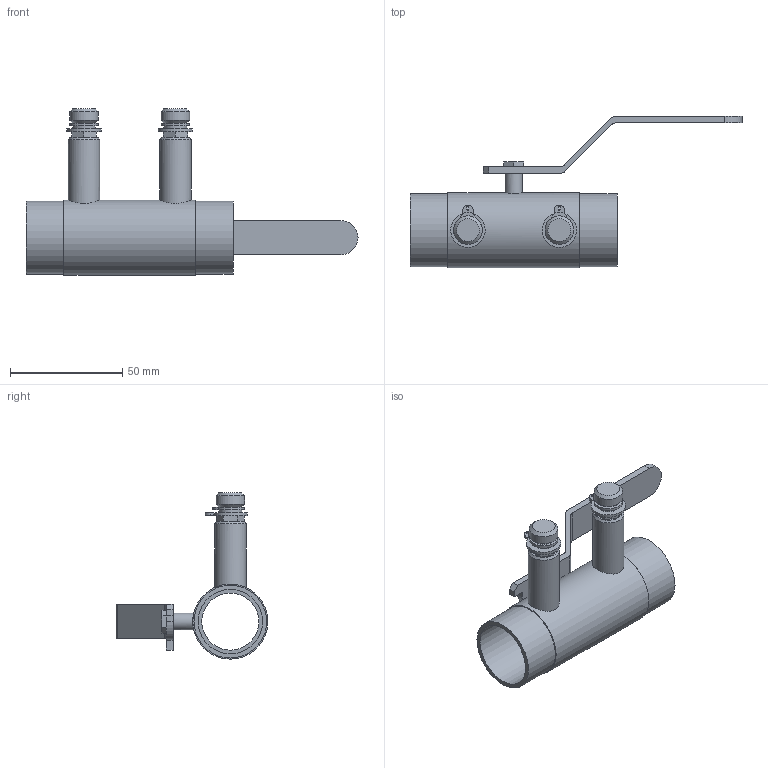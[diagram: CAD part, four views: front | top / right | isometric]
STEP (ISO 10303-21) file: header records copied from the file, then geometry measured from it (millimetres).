
FILE_DESCRIPTION(/* description */ ('VIC BALANCING VALVE SERIES 78BL (SWT)','CAx-IF Rec.Pracs.---Representation and Presentation of Product Manufacturing Information (PMI)---4.0---2014-10-13'),/* implementation_level */ '2;1');
FILE_NAME(/* name */ 'C:\Users\kkamble\Desktop\New folder (12)\New folder\step\Victaulic-IPS-TA Balancing Ball Valve Series 78BL (SWT)\Victaulic-IPS-TA Balancing Ball Valve Series 78BL (SWT)_1 (25).stp',/* time_stamp */ '2020-10-13T18:39:08+05:00',/* author */ ('kkamble'),/* organization */ ('Victaulic'),/* preprocessor_version */ 'ST-DEVELOPER v17.2',/* originating_system */ 'Autodesk Inventor 2019',/* authorisation */ '');
FILE_SCHEMA (('AP242_MANAGED_MODEL_BASED_3D_ENGINEERING_MIM_LF { 1 0 10303 442 1 1 4 }'));
Length unit declared in the file: inch
Products named in the file (1): 78BL-01.0
Bounding box: 147.7 x 67.5 x 73.98 mm (x, y, z)
Volume: 42982.8 mm3; surface area: 27079.2 mm2
Topology: 1 solids, 1 shells, 115 faces, 301 edges, 191 vertices
Faces by surface type: plane 77, cylinder 32, cone 6
Full cylindrical faces by diameter (mm): 4.318 x1, 7.62 x1, 10.16 x2, 12.7 x2, 13.97 x2, 25.4 x1, 28.651 x2, 32.385 x2, 33.401 x1
Entity records: 3941 total; most frequent: CARTESIAN_POINT 727, DIRECTION 654, ORIENTED_EDGE 602, EDGE_CURVE 301, AXIS2_PLACEMENT_3D 230, LINE 194, VECTOR 194, VERTEX_POINT 191
